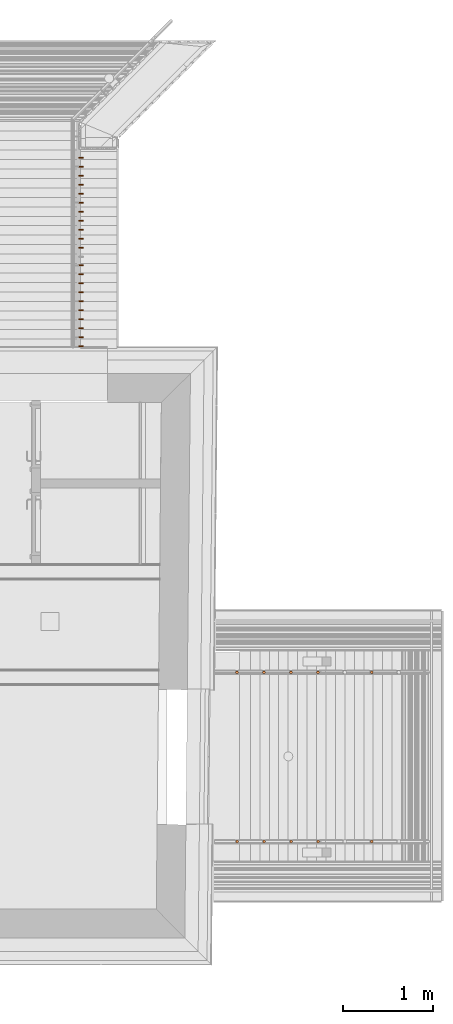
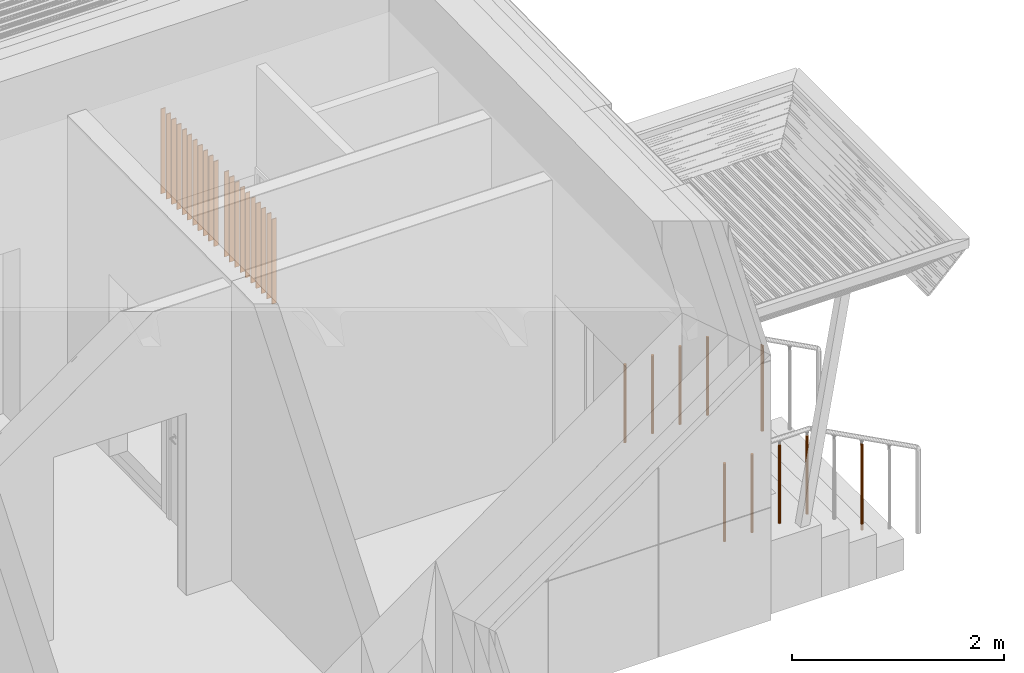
# One storey, part 374 of 418: 31 proxies, 3 elements without a shape of their own.
"""IFC2X3 building model written with IfcOpenShell, lengths in millimetres."""

from ifc_helpers import new_model, entity, si_unit, converted_unit, derived_unit, money_unit, direction, frame, origin_with_axes, place, context, subcontext, project, spatial, faceted_brep, source, transform, mapped, material, type_object, element, aggregate, save


model = new_model("IFC2X3")

# Units and contexts
model_context = context("Model", 3, precision=0.01, world=origin_with_axes(), true_north=direction((0.0, 1.0)))
body_context = subcontext(model_context, "Body", "Model", "MODEL_VIEW")
ifc_project = project(units=[si_unit("LENGTHUNIT", "METRE", prefix="MILLI"), si_unit("AREAUNIT", "SQUARE_METRE"), si_unit("VOLUMEUNIT", "CUBIC_METRE"), converted_unit("PLANEANGLEUNIT", "DEGREE", entity("IfcPlaneAngleMeasure", 0.0174532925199), si_unit("PLANEANGLEUNIT", "RADIAN"), dimensions=[0, 0, 0, 0, 0, 0, 0]), si_unit("SOLIDANGLEUNIT", "STERADIAN"), money_unit("EUR"), converted_unit("TIMEUNIT", "Year", entity("IfcTimeMeasure", 31556926.0), si_unit("TIMEUNIT", "SECOND"), dimensions=[0, 0, 1, 0, 0, 0, 0]), si_unit("MASSUNIT", "GRAM", prefix="KILO"), si_unit("THERMODYNAMICTEMPERATUREUNIT", "DEGREE_CELSIUS"), si_unit("LUMINOUSINTENSITYUNIT", "LUMEN"), si_unit("ENERGYUNIT", "JOULE", prefix="MEGA"), derived_unit("THERMALCONDUCTANCEUNIT", [(si_unit("POWERUNIT", "WATT"), 1), (si_unit("LENGTHUNIT", "METRE"), -1), (si_unit("THERMODYNAMICTEMPERATUREUNIT", "KELVIN"), -1)]), derived_unit("SPECIFICHEATCAPACITYUNIT", [(si_unit("ENERGYUNIT", "JOULE"), 1), (si_unit("MASSUNIT", "GRAM", prefix="KILO"), -1), (si_unit("THERMODYNAMICTEMPERATUREUNIT", "KELVIN"), -1)]), derived_unit("MASSDENSITYUNIT", [(si_unit("MASSUNIT", "GRAM", prefix="KILO"), 1), (si_unit("VOLUMEUNIT", "CUBIC_METRE"), -1)])], contexts=[model_context])

# Site, building, storey
site_placement = place(None, origin_with_axes())
site = spatial("IfcSite", under=ifc_project, at=site_placement, Name="Paldiski mnt 245/1, Tallinn, Harjumaa", CompositionType="COMPLEX")
building_placement = place(site_placement, origin_with_axes())
building = spatial("IfcBuilding", under=site, at=building_placement, Name="RKAS Hoone üldnimetus (kasutust iseloomustav) -> IFC Project Manager -> SOLIBRI", CompositionType="ELEMENT")
storey_placement = place(building_placement, origin_with_axes())
storey = spatial("IfcBuildingStorey", under=building, at=storey_placement, Name="Esimene korrus", CompositionType="ELEMENT", Elevation=0.0)

# Railing, proxies
railing_type = type_object("IfcRailingType", Name="Railing Type", PredefinedType="NOTDEFINED")
railing_placement = place(storey_placement, frame((-48195.2840938, 38542.759829, -20.0), z_axis=(0.0, 0.0, 1.0), x_axis=(0.0, -1.0, 0.0)))
railing = element("IfcRailing", 1, at=railing_placement, inside=storey, type_object=railing_type, Name="Trepipiire", PredefinedType="NOTDEFINED")
ifc_material = material(Name="RAL7016")
building_element_proxy_type_1 = type_object("IfcBuildingElementProxyType", Name="IfcBuildingElementProxy", PredefinedType="NOTDEFINED")
shared_shape_1 = source(origin_with_axes(), body_context, "Body", "Brep", [
    faceted_brep([(25.0, 5.0, 0.0), (-25.0, 5.0, 0.0), (-25.0, 5.0, 980.483323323), (25.0, 5.0, 980.483323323), (25.0, -5.0, 0.0), (-25.0, -5.0, 0.0), (-25.0, -5.0, 980.483323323), (25.0, -5.0, 980.483323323)], [[[0, 1, 2, 3]], [[0, 4, 5, 1]], [[1, 5, 6, 2]], [[3, 2, 6, 7]], [[4, 0, 3, 7]], [[5, 4, 7, 6]]]),
])
proxy_1_placement = place(railing_placement, frame((53.1118853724, -25.0, 9.51667667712), z_axis=(0.0, 0.0, 1.0), x_axis=(0.0, 1.0, 0.0)))
proxy_1 = element("IfcBuildingElementProxy", 2, at=proxy_1_placement, type_object=building_element_proxy_type_1, material=ifc_material, Name="SISEPOST - 001", context=body_context, shape_type="MappedRepresentation", body=[
    mapped(shared_shape_1, transform((0.0, 0.0, 0.0), x_axis=(-1.0, 0.0, 0.0), y_axis=(0.0, -1.0, 0.0), z_axis=(0.0, 0.0, 1.0))),
])
proxy_2_placement = place(railing_placement, frame((153.111885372, -25.0, 9.51667667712), z_axis=(0.0, 0.0, 1.0), x_axis=(0.0, 1.0, 0.0)))
proxy_2 = element("IfcBuildingElementProxy", 3, at=proxy_2_placement, type_object=building_element_proxy_type_1, material=ifc_material, Name="SISEPOST - 001", context=body_context, shape_type="MappedRepresentation", body=[
    mapped(shared_shape_1, transform((0.0, 0.0, 0.0), x_axis=(-1.0, 0.0, 0.0), y_axis=(0.0, -1.0, 0.0), z_axis=(0.0, 0.0, 1.0))),
])
proxy_3_placement = place(railing_placement, frame((253.111885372, -25.0, 9.51667667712), z_axis=(0.0, 0.0, 1.0), x_axis=(0.0, 1.0, 0.0)))
proxy_3 = element("IfcBuildingElementProxy", 4, at=proxy_3_placement, type_object=building_element_proxy_type_1, material=ifc_material, Name="SISEPOST - 001", context=body_context, shape_type="MappedRepresentation", body=[
    mapped(shared_shape_1, transform((0.0, 0.0, 0.0), x_axis=(-1.0, 0.0, 0.0), y_axis=(0.0, -1.0, 0.0), z_axis=(0.0, 0.0, 1.0))),
])
proxy_4_placement = place(railing_placement, frame((353.111885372, -25.0, 9.51667667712), z_axis=(0.0, 0.0, 1.0), x_axis=(0.0, 1.0, 0.0)))
proxy_4 = element("IfcBuildingElementProxy", 5, at=proxy_4_placement, type_object=building_element_proxy_type_1, material=ifc_material, Name="SISEPOST - 001", context=body_context, shape_type="MappedRepresentation", body=[
    mapped(shared_shape_1, transform((0.0, 0.0, 0.0), x_axis=(-1.0, 0.0, 0.0), y_axis=(0.0, -1.0, 0.0), z_axis=(0.0, 0.0, 1.0))),
])
proxy_5_placement = place(railing_placement, frame((453.111885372, -25.0, 9.51667667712), z_axis=(0.0, 0.0, 1.0), x_axis=(0.0, 1.0, 0.0)))
proxy_5 = element("IfcBuildingElementProxy", 6, at=proxy_5_placement, type_object=building_element_proxy_type_1, material=ifc_material, Name="SISEPOST - 001", context=body_context, shape_type="MappedRepresentation", body=[
    mapped(shared_shape_1, transform((0.0, 0.0, 0.0), x_axis=(-1.0, 0.0, 0.0), y_axis=(0.0, -1.0, 0.0), z_axis=(0.0, 0.0, 1.0))),
])
proxy_6_placement = place(railing_placement, frame((553.111885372, -25.0, 9.51667667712), z_axis=(0.0, 0.0, 1.0), x_axis=(0.0, 1.0, 0.0)))
proxy_6 = element("IfcBuildingElementProxy", 7, at=proxy_6_placement, type_object=building_element_proxy_type_1, material=ifc_material, Name="SISEPOST - 001", context=body_context, shape_type="MappedRepresentation", body=[
    mapped(shared_shape_1, transform((0.0, 0.0, 0.0), x_axis=(-1.0, 0.0, 0.0), y_axis=(0.0, -1.0, 0.0), z_axis=(0.0, 0.0, 1.0))),
])
proxy_7_placement = place(railing_placement, frame((653.111885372, -25.0, 9.51667667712), z_axis=(0.0, 0.0, 1.0), x_axis=(0.0, 1.0, 0.0)))
proxy_7 = element("IfcBuildingElementProxy", 8, at=proxy_7_placement, type_object=building_element_proxy_type_1, material=ifc_material, Name="SISEPOST - 001", context=body_context, shape_type="MappedRepresentation", body=[
    mapped(shared_shape_1, transform((0.0, 0.0, 0.0), x_axis=(-1.0, 0.0, 0.0), y_axis=(0.0, -1.0, 0.0), z_axis=(0.0, 0.0, 1.0))),
])
proxy_8_placement = place(railing_placement, frame((753.111885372, -25.0, 9.51667667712), z_axis=(0.0, 0.0, 1.0), x_axis=(0.0, 1.0, 0.0)))
proxy_8 = element("IfcBuildingElementProxy", 9, at=proxy_8_placement, type_object=building_element_proxy_type_1, material=ifc_material, Name="SISEPOST - 001", context=body_context, shape_type="MappedRepresentation", body=[
    mapped(shared_shape_1, transform((0.0, 0.0, 0.0), x_axis=(-1.0, 0.0, 0.0), y_axis=(0.0, -1.0, 0.0), z_axis=(0.0, 0.0, 1.0))),
])
proxy_9_placement = place(railing_placement, frame((853.111885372, -25.0, 9.51667667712), z_axis=(0.0, 0.0, 1.0), x_axis=(0.0, 1.0, 0.0)))
proxy_9 = element("IfcBuildingElementProxy", 10, at=proxy_9_placement, type_object=building_element_proxy_type_1, material=ifc_material, Name="SISEPOST - 001", context=body_context, shape_type="MappedRepresentation", body=[
    mapped(shared_shape_1, transform((0.0, 0.0, 0.0), x_axis=(-1.0, 0.0, 0.0), y_axis=(0.0, -1.0, 0.0), z_axis=(0.0, 0.0, 1.0))),
])
proxy_10_placement = place(railing_placement, frame((953.111885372, -25.0, 9.51667667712), z_axis=(0.0, 0.0, 1.0), x_axis=(0.0, 1.0, 0.0)))
proxy_10 = element("IfcBuildingElementProxy", 11, at=proxy_10_placement, type_object=building_element_proxy_type_1, material=ifc_material, Name="SISEPOST - 001", context=body_context, shape_type="MappedRepresentation", body=[
    mapped(shared_shape_1, transform((0.0, 0.0, 0.0), x_axis=(-1.0, 0.0, 0.0), y_axis=(0.0, -1.0, 0.0), z_axis=(0.0, 0.0, 1.0))),
])
proxy_11_placement = place(railing_placement, frame((1053.11188537, -25.0, 9.51667667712), z_axis=(0.0, 0.0, 1.0), x_axis=(0.0, 1.0, 0.0)))
proxy_11 = element("IfcBuildingElementProxy", 12, at=proxy_11_placement, type_object=building_element_proxy_type_1, material=ifc_material, Name="SISEPOST - 001", context=body_context, shape_type="MappedRepresentation", body=[
    mapped(shared_shape_1, transform((0.0, 0.0, 0.0), x_axis=(-1.0, 0.0, 0.0), y_axis=(0.0, -1.0, 0.0), z_axis=(0.0, 0.0, 1.0))),
])
proxy_12_placement = place(railing_placement, frame((1249.11188537, -25.0, 9.51667667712), z_axis=(0.0, 0.0, 1.0), x_axis=(0.0, 1.0, 0.0)))
proxy_12 = element("IfcBuildingElementProxy", 13, at=proxy_12_placement, type_object=building_element_proxy_type_1, material=ifc_material, Name="SISEPOST - 001", context=body_context, shape_type="MappedRepresentation", body=[
    mapped(shared_shape_1, transform((0.0, 0.0, 0.0), x_axis=(-1.0, 0.0, 0.0), y_axis=(0.0, -1.0, 0.0), z_axis=(0.0, 0.0, 1.0))),
])
proxy_13_placement = place(railing_placement, frame((1349.11188537, -25.0, 9.51667667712), z_axis=(0.0, 0.0, 1.0), x_axis=(0.0, 1.0, 0.0)))
proxy_13 = element("IfcBuildingElementProxy", 14, at=proxy_13_placement, type_object=building_element_proxy_type_1, material=ifc_material, Name="SISEPOST - 001", context=body_context, shape_type="MappedRepresentation", body=[
    mapped(shared_shape_1, transform((0.0, 0.0, 0.0), x_axis=(-1.0, 0.0, 0.0), y_axis=(0.0, -1.0, 0.0), z_axis=(0.0, 0.0, 1.0))),
])
proxy_14_placement = place(railing_placement, frame((1449.11188537, -25.0, 9.51667667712), z_axis=(0.0, 0.0, 1.0), x_axis=(0.0, 1.0, 0.0)))
proxy_14 = element("IfcBuildingElementProxy", 15, at=proxy_14_placement, type_object=building_element_proxy_type_1, material=ifc_material, Name="SISEPOST - 001", context=body_context, shape_type="MappedRepresentation", body=[
    mapped(shared_shape_1, transform((0.0, 0.0, 0.0), x_axis=(-1.0, 0.0, 0.0), y_axis=(0.0, -1.0, 0.0), z_axis=(0.0, 0.0, 1.0))),
])
proxy_15_placement = place(railing_placement, frame((1549.11188537, -25.0, 9.51667667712), z_axis=(0.0, 0.0, 1.0), x_axis=(0.0, 1.0, 0.0)))
proxy_15 = element("IfcBuildingElementProxy", 16, at=proxy_15_placement, type_object=building_element_proxy_type_1, material=ifc_material, Name="SISEPOST - 001", context=body_context, shape_type="MappedRepresentation", body=[
    mapped(shared_shape_1, transform((0.0, 0.0, 0.0), x_axis=(-1.0, 0.0, 0.0), y_axis=(0.0, -1.0, 0.0), z_axis=(0.0, 0.0, 1.0))),
])
proxy_16_placement = place(railing_placement, frame((1649.11188537, -25.0, 9.51667667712), z_axis=(0.0, 0.0, 1.0), x_axis=(0.0, 1.0, 0.0)))
proxy_16 = element("IfcBuildingElementProxy", 17, at=proxy_16_placement, type_object=building_element_proxy_type_1, material=ifc_material, Name="SISEPOST - 001", context=body_context, shape_type="MappedRepresentation", body=[
    mapped(shared_shape_1, transform((0.0, 0.0, 0.0), x_axis=(-1.0, 0.0, 0.0), y_axis=(0.0, -1.0, 0.0), z_axis=(0.0, 0.0, 1.0))),
])
proxy_17_placement = place(railing_placement, frame((1749.11188537, -25.0, 9.51667667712), z_axis=(0.0, 0.0, 1.0), x_axis=(0.0, 1.0, 0.0)))
proxy_17 = element("IfcBuildingElementProxy", 18, at=proxy_17_placement, type_object=building_element_proxy_type_1, material=ifc_material, Name="SISEPOST - 001", context=body_context, shape_type="MappedRepresentation", body=[
    mapped(shared_shape_1, transform((0.0, 0.0, 0.0), x_axis=(-1.0, 0.0, 0.0), y_axis=(0.0, -1.0, 0.0), z_axis=(0.0, 0.0, 1.0))),
])
proxy_18_placement = place(railing_placement, frame((1849.11188537, -25.0, 9.51667667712), z_axis=(0.0, 0.0, 1.0), x_axis=(0.0, 1.0, 0.0)))
proxy_18 = element("IfcBuildingElementProxy", 19, at=proxy_18_placement, type_object=building_element_proxy_type_1, material=ifc_material, Name="SISEPOST - 001", context=body_context, shape_type="MappedRepresentation", body=[
    mapped(shared_shape_1, transform((0.0, 0.0, 0.0), x_axis=(-1.0, 0.0, 0.0), y_axis=(0.0, -1.0, 0.0), z_axis=(0.0, 0.0, 1.0))),
])
proxy_19_placement = place(railing_placement, frame((1949.11188537, -25.0, 9.51667667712), z_axis=(0.0, 0.0, 1.0), x_axis=(0.0, 1.0, 0.0)))
proxy_19 = element("IfcBuildingElementProxy", 20, at=proxy_19_placement, type_object=building_element_proxy_type_1, material=ifc_material, Name="SISEPOST - 001", context=body_context, shape_type="MappedRepresentation", body=[
    mapped(shared_shape_1, transform((0.0, 0.0, 0.0), x_axis=(-1.0, 0.0, 0.0), y_axis=(0.0, -1.0, 0.0), z_axis=(0.0, 0.0, 1.0))),
])
proxy_20_placement = place(railing_placement, frame((2049.11188537, -25.0, 9.51667667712), z_axis=(0.0, 0.0, 1.0), x_axis=(0.0, 1.0, 0.0)))
proxy_20 = element("IfcBuildingElementProxy", 21, at=proxy_20_placement, type_object=building_element_proxy_type_1, material=ifc_material, Name="SISEPOST - 001", context=body_context, shape_type="MappedRepresentation", body=[
    mapped(shared_shape_1, transform((0.0, 0.0, 0.0), x_axis=(-1.0, 0.0, 0.0), y_axis=(0.0, -1.0, 0.0), z_axis=(0.0, 0.0, 1.0))),
])
proxy_21_placement = place(railing_placement, frame((2149.11188537, -25.0, 9.51667667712), z_axis=(0.0, 0.0, 1.0), x_axis=(0.0, 1.0, 0.0)))
proxy_21 = element("IfcBuildingElementProxy", 22, at=proxy_21_placement, type_object=building_element_proxy_type_1, material=ifc_material, Name="SISEPOST - 001", context=body_context, shape_type="MappedRepresentation", body=[
    mapped(shared_shape_1, transform((0.0, 0.0, 0.0), x_axis=(-1.0, 0.0, 0.0), y_axis=(0.0, -1.0, 0.0), z_axis=(0.0, 0.0, 1.0))),
])
aggregate(railing, [proxy_1, proxy_2, proxy_3, proxy_4, proxy_5, proxy_6, proxy_7, proxy_8, proxy_9, proxy_10, proxy_11, proxy_12, proxy_13, proxy_14, proxy_15, proxy_16, proxy_17, proxy_18, proxy_19, proxy_20, proxy_21])

# Proxies
building_element_proxy_type_2 = type_object("IfcBuildingElementProxyType", Name="Railing Type", PredefinedType="NOTDEFINED")
proxy_22_placement = place(storey_placement, frame((-46768.8433803, 32771.6822003, -641.218687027), z_axis=(0.0, 0.0, 1.0), x_axis=(1.0, 0.0, 0.0)))
proxy_22 = element("IfcBuildingElementProxy", 23, at=proxy_22_placement, inside=storey, type_object=building_element_proxy_type_2, Name="Trepipiire")
shared_shape_2 = source(origin_with_axes(), body_context, "Body", "Brep", [
    faceted_brep([(0.0, -15.0, 0.0), (2.604722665, -14.7721162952, 0.0), (2.604722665, -14.7721162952, 900.0), (0.0, -15.0, 900.0), (-2.604722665, -14.7721162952, 0.0), (-5.13030214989, -14.0953893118, 0.0), (-7.5, -12.9903810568, 0.0), (-9.6418141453, -11.4906666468, 0.0), (-11.4906666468, -9.6418141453, 0.0), (-12.9903810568, -7.5, 0.0), (-14.0953893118, -5.13030214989, 0.0), (-14.7721162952, -2.604722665, 0.0), (-15.0, 0.0, 0.0), (-14.7721162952, 2.604722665, 0.0), (-14.0953893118, 5.13030214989, 0.0), (-12.9903810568, 7.5, 0.0), (-11.4906666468, 9.6418141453, 0.0), (-9.6418141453, 11.4906666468, 0.0), (-7.5, 12.9903810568, 0.0), (-5.13030214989, 14.0953893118, 0.0), (-2.604722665, 14.7721162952, 0.0), (0.0, 15.0, 0.0), (2.604722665, 14.7721162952, 0.0), (5.13030214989, 14.0953893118, 0.0), (7.5, 12.9903810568, 0.0), (9.6418141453, 11.4906666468, 0.0), (11.4906666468, 9.6418141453, 0.0), (12.9903810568, 7.5, 0.0), (14.0953893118, 5.13030214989, 0.0), (14.7721162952, 2.604722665, 0.0), (15.0, 0.0, 0.0), (14.7721162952, -2.604722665, 0.0), (14.0953893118, -5.13030214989, 0.0), (12.9903810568, -7.5, 0.0), (11.4906666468, -9.6418141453, 0.0), (9.6418141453, -11.4906666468, 0.0), (7.5, -12.9903810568, 0.0), (5.13030214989, -14.0953893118, 0.0), (5.13030214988, -14.0953893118, 900.0), (7.49999999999, -12.9903810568, 900.0), (9.64181414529, -11.4906666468, 900.0), (11.4906666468, -9.6418141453, 900.0), (12.9903810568, -7.5, 900.0), (14.0953893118, -5.13030214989, 900.0), (14.7721162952, -2.60472266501, 900.0), (15.0, 0.0, 900.0), (14.7721162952, 2.604722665, 900.0), (14.0953893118, 5.13030214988, 900.0), (12.9903810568, 7.5, 900.0), (11.4906666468, 9.64181414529, 900.0), (9.64181414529, 11.4906666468, 900.0), (7.49999999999, 12.9903810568, 900.0), (5.13030214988, 14.0953893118, 900.0), (2.604722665, 14.7721162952, 900.0), (0.0, 15.0, 900.0), (-2.60472266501, 14.7721162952, 900.0), (-5.13030214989, 14.0953893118, 900.0), (-7.50000000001, 12.9903810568, 900.0), (-9.64181414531, 11.4906666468, 900.0), (-11.4906666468, 9.64181414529, 900.0), (-12.9903810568, 7.5, 900.0), (-14.0953893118, 5.13030214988, 900.0), (-14.7721162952, 2.604722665, 900.0), (-15.0, 0.0, 900.0), (-14.7721162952, -2.60472266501, 900.0), (-14.0953893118, -5.13030214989, 900.0), (-12.9903810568, -7.5, 900.0), (-11.4906666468, -9.6418141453, 900.0), (-9.64181414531, -11.4906666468, 900.0), (-7.50000000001, -12.9903810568, 900.0), (-5.13030214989, -14.0953893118, 900.0), (-2.60472266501, -14.7721162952, 900.0)], [[[0, 1, 2, 3]], [[0, 4, 5, 6, 7, 8, 9, 10, 11, 12, 13, 14, 15, 16, 17, 18, 19, 20, 21, 22, 23, 24, 25, 26, 27, 28, 29, 30, 31, 32, 33, 34, 35, 36, 37, 1]], [[1, 37, 38, 2]], [[3, 2, 38, 39, 40, 41, 42, 43, 44, 45, 46, 47, 48, 49, 50, 51, 52, 53, 54, 55, 56, 57, 58, 59, 60, 61, 62, 63, 64, 65, 66, 67, 68, 69, 70, 71]], [[4, 0, 3, 71]], [[5, 4, 71, 70]], [[6, 5, 70, 69]], [[7, 6, 69, 68]], [[8, 7, 68, 67]], [[9, 8, 67, 66]], [[10, 9, 66, 65]], [[11, 10, 65, 64]], [[12, 11, 64, 63]], [[13, 12, 63, 62]], [[14, 13, 62, 61]], [[15, 14, 61, 60]], [[16, 15, 60, 59]], [[17, 16, 59, 58]], [[18, 17, 58, 57]], [[19, 18, 57, 56]], [[20, 19, 56, 55]], [[21, 20, 55, 54]], [[22, 21, 54, 53]], [[23, 22, 53, 52]], [[24, 23, 52, 51]], [[25, 24, 51, 50]], [[26, 25, 50, 49]], [[27, 26, 49, 48]], [[28, 27, 48, 47]], [[29, 28, 47, 46]], [[30, 29, 46, 45]], [[31, 30, 45, 44]], [[32, 31, 44, 43]], [[33, 32, 43, 42]], [[34, 33, 42, 41]], [[35, 34, 41, 40]], [[36, 35, 40, 39]], [[37, 36, 39, 38]]]),
])
proxy_23_placement = place(proxy_22_placement, frame((280.253014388, 0.0, 621.218687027), z_axis=(0.0, 0.0, 1.0), x_axis=(1.0, 0.0, 0.0)))
proxy_23 = element("IfcBuildingElementProxy", 24, at=proxy_23_placement, type_object=building_element_proxy_type_1, material=ifc_material, Name="SISEPOST - 001", context=body_context, shape_type="MappedRepresentation", body=[
    mapped(shared_shape_2, transform((0.0, 0.0, 0.0), x_axis=(0.0, -1.0, 0.0), y_axis=(1.0, 0.0, 0.0), z_axis=(0.0, 0.0, 1.0))),
])
proxy_24_placement = place(proxy_22_placement, frame((580.253014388, 0.0, 621.218687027), z_axis=(0.0, 0.0, 1.0), x_axis=(1.0, 0.0, 0.0)))
proxy_24 = element("IfcBuildingElementProxy", 25, at=proxy_24_placement, type_object=building_element_proxy_type_1, material=ifc_material, Name="SISEPOST - 001", context=body_context, shape_type="MappedRepresentation", body=[
    mapped(shared_shape_2, transform((0.0, 0.0, 0.0), x_axis=(0.0, -1.0, 0.0), y_axis=(1.0, 0.0, 0.0), z_axis=(0.0, 0.0, 1.0))),
])
proxy_25_placement = place(proxy_22_placement, frame((880.253014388, 0.0, 621.218687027), z_axis=(0.0, 0.0, 1.0), x_axis=(1.0, 0.0, 0.0)))
proxy_25 = element("IfcBuildingElementProxy", 26, at=proxy_25_placement, type_object=building_element_proxy_type_1, material=ifc_material, Name="SISEPOST - 001", context=body_context, shape_type="MappedRepresentation", body=[
    mapped(shared_shape_2, transform((0.0, 0.0, 0.0), x_axis=(0.0, -1.0, 0.0), y_axis=(1.0, 0.0, 0.0), z_axis=(0.0, 0.0, 1.0))),
])
proxy_26_placement = place(proxy_22_placement, frame((1180.25301439, 0.0, 621.218687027), z_axis=(0.0, 0.0, 1.0), x_axis=(1.0, 0.0, 0.0)))
proxy_26 = element("IfcBuildingElementProxy", 27, at=proxy_26_placement, type_object=building_element_proxy_type_1, material=ifc_material, Name="SISEPOST - 001", context=body_context, shape_type="MappedRepresentation", body=[
    mapped(shared_shape_2, transform((0.0, 0.0, 0.0), x_axis=(0.0, -1.0, 0.0), y_axis=(1.0, 0.0, 0.0), z_axis=(0.0, 0.0, 1.0))),
])

proxy_27_placement = place(storey_placement, frame((-46768.8433803, 30891.790867, -641.218687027), z_axis=(0.0, 0.0, 1.0), x_axis=(1.0, 0.0, 0.0)))
proxy_27 = element("IfcBuildingElementProxy", 28, at=proxy_27_placement, inside=storey, type_object=building_element_proxy_type_2, Name="Trepipiire")
proxy_28_placement = place(proxy_27_placement, frame((281.448613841, 0.0, 621.218687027), z_axis=(0.0, 0.0, 1.0), x_axis=(1.0, 0.0, 0.0)))
proxy_28 = element("IfcBuildingElementProxy", 29, at=proxy_28_placement, type_object=building_element_proxy_type_1, material=ifc_material, Name="SISEPOST - 001", context=body_context, shape_type="MappedRepresentation", body=[
    mapped(shared_shape_2, transform((0.0, 0.0, 0.0), x_axis=(0.0, -1.0, 0.0), y_axis=(1.0, 0.0, 0.0), z_axis=(0.0, 0.0, 1.0))),
])
proxy_29_placement = place(proxy_27_placement, frame((581.448613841, 0.0, 621.218687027), z_axis=(0.0, 0.0, 1.0), x_axis=(1.0, 0.0, 0.0)))
proxy_29 = element("IfcBuildingElementProxy", 30, at=proxy_29_placement, type_object=building_element_proxy_type_1, material=ifc_material, Name="SISEPOST - 001", context=body_context, shape_type="MappedRepresentation", body=[
    mapped(shared_shape_2, transform((0.0, 0.0, 0.0), x_axis=(0.0, -1.0, 0.0), y_axis=(1.0, 0.0, 0.0), z_axis=(0.0, 0.0, 1.0))),
])
proxy_30_placement = place(proxy_27_placement, frame((881.448613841, 0.0, 621.218687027), z_axis=(0.0, 0.0, 1.0), x_axis=(1.0, 0.0, 0.0)))
proxy_30 = element("IfcBuildingElementProxy", 31, at=proxy_30_placement, type_object=building_element_proxy_type_1, material=ifc_material, Name="SISEPOST - 001", context=body_context, shape_type="MappedRepresentation", body=[
    mapped(shared_shape_2, transform((0.0, 0.0, 0.0), x_axis=(0.0, -1.0, 0.0), y_axis=(1.0, 0.0, 0.0), z_axis=(0.0, 0.0, 1.0))),
])
proxy_31_placement = place(proxy_27_placement, frame((1181.44861384, 0.0, 621.218687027), z_axis=(0.0, 0.0, 1.0), x_axis=(1.0, 0.0, 0.0)))
proxy_31 = element("IfcBuildingElementProxy", 32, at=proxy_31_placement, type_object=building_element_proxy_type_1, material=ifc_material, Name="SISEPOST - 001", context=body_context, shape_type="MappedRepresentation", body=[
    mapped(shared_shape_2, transform((0.0, 0.0, 0.0), x_axis=(0.0, -1.0, 0.0), y_axis=(1.0, 0.0, 0.0), z_axis=(0.0, 0.0, 1.0))),
])

# Proxy
shared_shape_3 = source(origin_with_axes(), body_context, "Body", "Brep", [
    faceted_brep([(0.0, -15.0, 0.0), (2.604722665, -14.7721162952, 0.0), (2.604722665, -14.7721162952, 996.156254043), (0.0, -15.0, 996.277838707), (-2.604722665, -14.7721162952, 0.0), (-5.13030214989, -14.0953893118, 0.0), (-7.5, -12.9903810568, 0.0), (-9.6418141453, -11.4906666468, 0.0), (-11.4906666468, -9.6418141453, 0.0), (-12.9903810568, -7.5, 0.0), (-14.0953893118, -5.13030214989, 0.0), (-14.7721162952, -2.604722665, 0.0), (-15.0, 0.0, 0.0), (-14.7721162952, 2.604722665, 0.0), (-14.0953893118, 5.13030214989, 0.0), (-12.9903810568, 7.5, 0.0), (-11.4906666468, 9.6418141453, 0.0), (-9.6418141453, 11.4906666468, 0.0), (-7.5, 12.9903810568, 0.0), (-5.13030214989, 14.0953893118, 0.0), (-2.604722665, 14.7721162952, 0.0), (0.0, 15.0, 0.0), (2.604722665, 14.7721162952, 0.0), (5.13030214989, 14.0953893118, 0.0), (7.5, 12.9903810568, 0.0), (9.6418141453, 11.4906666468, 0.0), (11.4906666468, 9.6418141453, 0.0), (12.9903810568, 7.5, 0.0), (14.0953893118, 5.13030214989, 0.0), (14.7721162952, 2.604722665, 0.0), (15.0, 0.0, 0.0), (14.7721162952, -2.604722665, 0.0), (14.0953893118, -5.13030214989, 0.0), (12.9903810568, -7.5, 0.0), (11.4906666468, -9.6418141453, 0.0), (9.6418141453, -11.4906666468, 0.0), (7.5, -12.9903810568, 0.0), (5.13030214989, -14.0953893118, 0.0), (5.13030214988, -14.0953893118, 995.795194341), (7.5, -12.9903810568, 995.205630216), (9.64181414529, -11.4906666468, 994.405475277), (11.4906666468, -9.6418141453, 993.419041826), (12.9903810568, -7.5, 992.276302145), (14.0953893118, -5.13030214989, 991.0119778), (14.7721162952, -2.604722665, 989.664484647), (15.0, 0.0, 988.274765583), (14.7721162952, 2.604722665, 986.88504652), (14.0953893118, 5.13030214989, 985.537553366), (12.9903810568, 7.5, 984.273229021), (11.4906666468, 9.6418141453, 983.13048934), (9.64181414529, 11.4906666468, 982.144055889), (7.5, 12.9903810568, 981.34390095), (5.13030214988, 14.0953893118, 980.754336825), (2.604722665, 14.7721162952, 980.393277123), (0.0, 15.0, 980.27169246), (-2.60472266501, 14.7721162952, 980.393277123), (-5.13030214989, 14.0953893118, 980.754336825), (-7.5, 12.9903810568, 981.34390095), (-9.6418141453, 11.4906666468, 982.144055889), (-11.4906666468, 9.6418141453, 983.13048934), (-12.9903810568, 7.5, 984.273229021), (-14.0953893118, 5.13030214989, 985.537553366), (-14.7721162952, 2.604722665, 986.88504652), (-15.0, 0.0, 988.274765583), (-14.7721162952, -2.604722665, 989.664484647), (-14.0953893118, -5.13030214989, 991.0119778), (-12.9903810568, -7.5, 992.276302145), (-11.4906666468, -9.6418141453, 993.419041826), (-9.6418141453, -11.4906666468, 994.405475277), (-7.5, -12.9903810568, 995.205630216), (-5.13030214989, -14.0953893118, 995.795194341), (-2.60472266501, -14.7721162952, 996.156254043)], [[[0, 1, 2, 3]], [[0, 4, 5, 6, 7, 8, 9, 10, 11, 12, 13, 14, 15, 16, 17, 18, 19, 20, 21, 22, 23, 24, 25, 26, 27, 28, 29, 30, 31, 32, 33, 34, 35, 36, 37, 1]], [[1, 37, 38, 2]], [[3, 2, 38, 39, 40, 41, 42, 43, 44, 45, 46, 47, 48, 49, 50, 51, 52, 53, 54, 55, 56, 57, 58, 59, 60, 61, 62, 63, 64, 65, 66, 67, 68, 69, 70, 71]], [[4, 0, 3, 71]], [[5, 4, 71, 70]], [[6, 5, 70, 69]], [[7, 6, 69, 68]], [[8, 7, 68, 67]], [[9, 8, 67, 66]], [[10, 9, 66, 65]], [[11, 10, 65, 64]], [[12, 11, 64, 63]], [[13, 12, 63, 62]], [[14, 13, 62, 61]], [[15, 14, 61, 60]], [[16, 15, 60, 59]], [[17, 16, 59, 58]], [[18, 17, 58, 57]], [[19, 18, 57, 56]], [[20, 19, 56, 55]], [[21, 20, 55, 54]], [[22, 21, 54, 53]], [[23, 22, 53, 52]], [[24, 23, 52, 51]], [[25, 24, 51, 50]], [[26, 25, 50, 49]], [[27, 26, 49, 48]], [[28, 27, 48, 47]], [[29, 28, 47, 46]], [[30, 29, 46, 45]], [[31, 30, 45, 44]], [[32, 31, 44, 43]], [[33, 32, 43, 42]], [[34, 33, 42, 41]], [[35, 34, 41, 40]], [[36, 35, 40, 39]], [[37, 36, 39, 38]]]),
])
proxy_32_placement = place(proxy_22_placement, frame((1778.09248792, 0.0, 230.609343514), z_axis=(0.0, 0.0, 1.0), x_axis=(1.0, 0.0, 0.0)))
proxy_32 = element("IfcBuildingElementProxy", 33, at=proxy_32_placement, type_object=building_element_proxy_type_1, material=ifc_material, Name="SISEPOST - 001", context=body_context, shape_type="MappedRepresentation", body=[
    mapped(shared_shape_3, transform((0.0, 0.0, 0.0), x_axis=(0.0, -1.0, 0.0), y_axis=(1.0, 0.0, 0.0), z_axis=(0.0, 0.0, 1.0))),
])

aggregate(proxy_22, [proxy_23, proxy_24, proxy_25, proxy_26, proxy_32])

proxy_33_placement = place(proxy_27_placement, frame((1778.09248792, 0.0, 230.609343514), z_axis=(0.0, 0.0, 1.0), x_axis=(1.0, 0.0, 0.0)))
proxy_33 = element("IfcBuildingElementProxy", 34, at=proxy_33_placement, type_object=building_element_proxy_type_1, material=ifc_material, Name="SISEPOST - 001", context=body_context, shape_type="MappedRepresentation", body=[
    mapped(shared_shape_3, transform((0.0, 0.0, 0.0), x_axis=(0.0, -1.0, 0.0), y_axis=(1.0, 0.0, 0.0), z_axis=(0.0, 0.0, 1.0))),
])

aggregate(proxy_27, [proxy_28, proxy_29, proxy_30, proxy_31, proxy_33])

save(model, "model.ifc")
